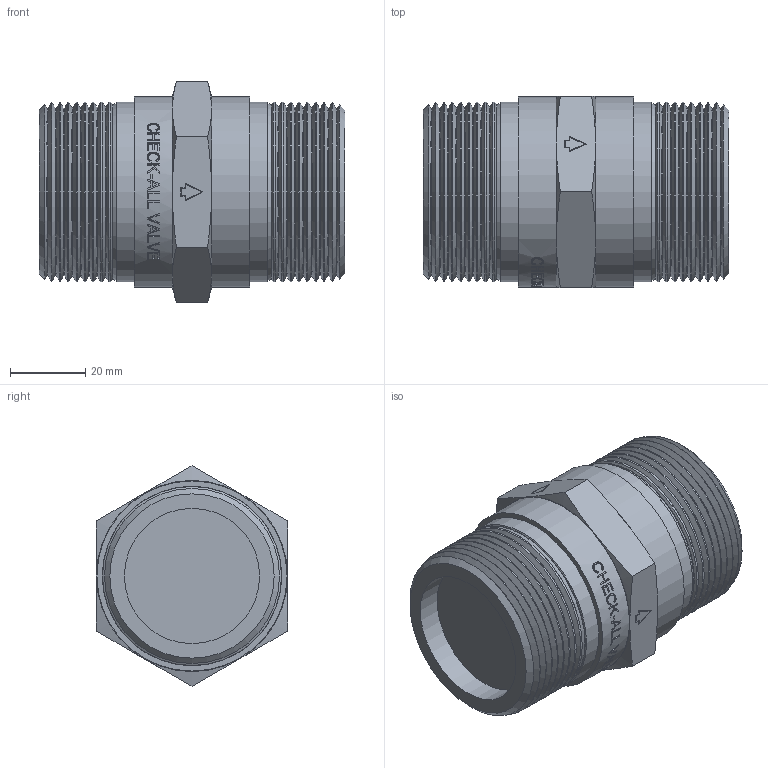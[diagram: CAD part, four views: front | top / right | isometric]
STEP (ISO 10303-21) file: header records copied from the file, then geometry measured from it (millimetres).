
FILE_DESCRIPTION( ( 'Unknown' ), '1' );
FILE_NAME( 'Y:/ENGR/3D Solid Edge Models/CN/CNJ.stp', 'Unknown', ( 'Unknown' ), ( 'Unknown' ), 'PSStep 14.0', 'Unknown', ' ' );
FILE_SCHEMA( ( 'AUTOMOTIVE_DESIGN { 1 0 10303 214 1 1 1 1 }' ) );
Length unit declared in the file: inch
Products named in the file (1): 1
Bounding box: 81.28 x 50.8 x 58.66 mm (x, y, z)
Volume: 136768.4 mm3; surface area: 22017.3 mm2
Topology: 1 solids, 1 shells, 307 faces, 750 edges, 476 vertices
Faces by surface type: plane 152, cone 54, bspline 42, cylinder 39, torus 20
Full cylindrical faces by diameter (mm): 35.941 x2, 47.727 x16, 50.546 x2
Entity records: 12927 total; most frequent: CARTESIAN_POINT 4567, ORIENTED_EDGE 1304, DIRECTION 864, EDGE_CURVE 652, VERTEX_POINT 460, EDGE_LOOP 420, B_SPLINE_CURVE_WITH_KNOTS 420, AXIS2_PLACEMENT_3D 366
